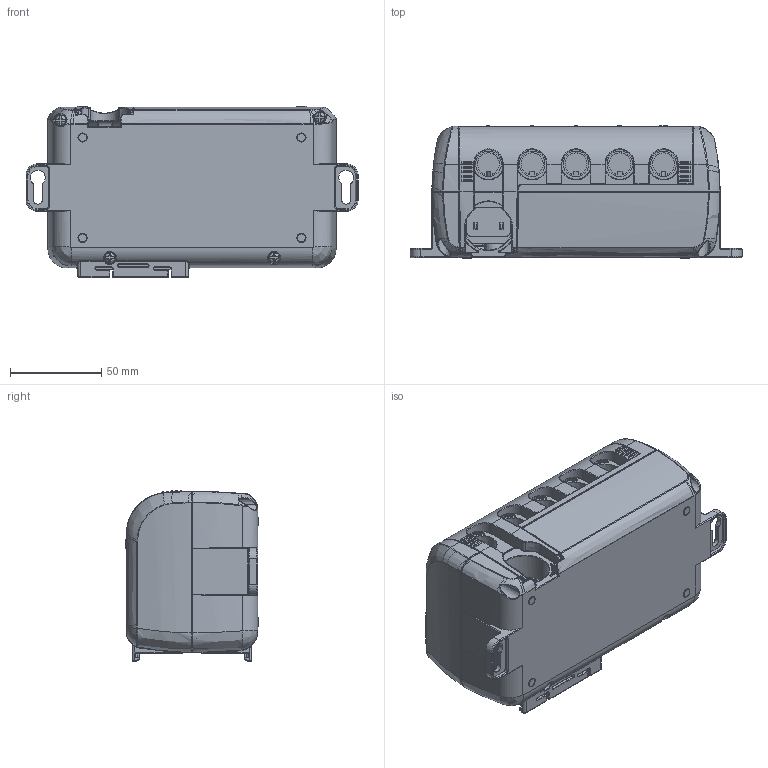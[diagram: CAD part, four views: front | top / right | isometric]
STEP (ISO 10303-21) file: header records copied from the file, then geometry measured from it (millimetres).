
FILE_DESCRIPTION((''),'2;1');
FILE_NAME('CM45-0','2020-04-01T',('USER'),(''),'PRO/ENGINEER BY PARAMETRIC TECHNOLOGY CORPORATION, 2016240','PRO/ENGINEER BY PARAMETRIC TECHNOLOGY CORPORATION, 2016240','');
FILE_SCHEMA(('CONFIG_CONTROL_DESIGN'));
Products named in the file (1): CM45-0
Bounding box: 182 x 72.6 x 93.74 mm (x, y, z)
Surface area: 171107.5 mm2 (no closed solid volume)
Topology: 0 solids, 15 shells, 2940 faces, 7593 edges, 4705 vertices
Faces by surface type: cylinder 917, plane 886, bspline 540, torus 376, cone 148, sphere 49, extrusion 24
Entity records: 148053 total; most frequent: CARTESIAN_POINT 81071, ORIENTED_EDGE 15124, DIRECTION 12508, EDGE_CURVE 7562, AXIS2_PLACEMENT_3D 4707, VERTEX_POINT 4705, VECTOR 3094, LINE 3070
